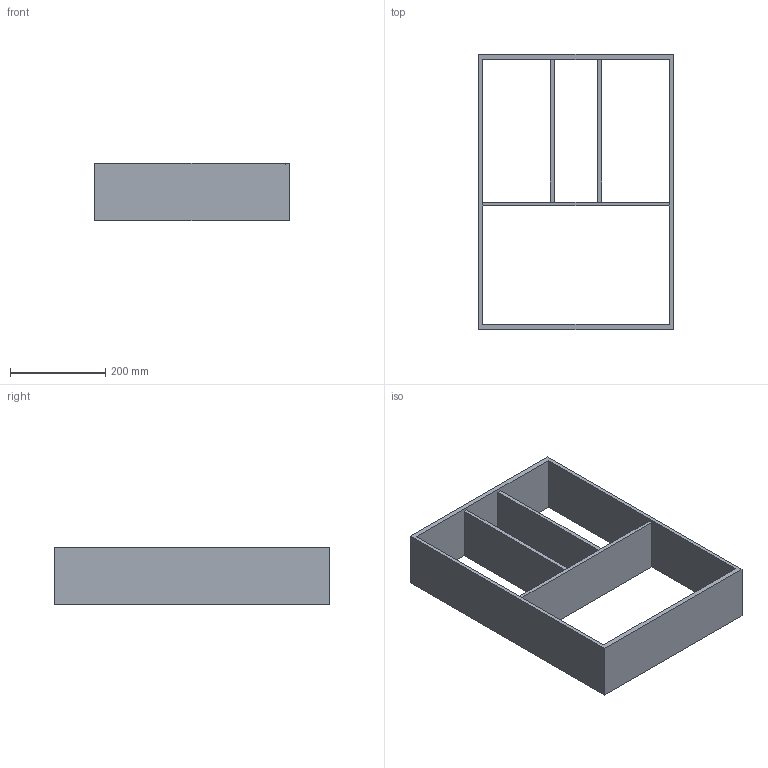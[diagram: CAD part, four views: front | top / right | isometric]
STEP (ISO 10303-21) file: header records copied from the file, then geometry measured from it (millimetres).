
FILE_DESCRIPTION (( 'STEP AP214' ), '1' );
FILE_NAME ('Vario Multi H120 NL600_B500_16 mm_Alu-Buche.step', '2010-10-08T09:47:44', ( 'grass' ), ( '' ), 'SwSTEP 2.0', 'SolidWorks 2010', '' );
FILE_SCHEMA (( 'AUTOMOTIVE_DESIGN' ));
Length unit declared in the file: millimetre
Products named in the file (1): Vario Multi H120 NL600_B500_16 mm_Alu-Buche
Bounding box: 408 x 579 x 120 mm (x, y, z)
Volume: 3050676 mm3; surface area: 736840 mm2
Topology: 1 solids, 1 shells, 22 faces, 60 edges, 40 vertices
Faces by surface type: plane 22
Entity records: 734 total; most frequent: CARTESIAN_POINT 123, ORIENTED_EDGE 120, DIRECTION 106, LINE 60, VECTOR 60, EDGE_CURVE 60, VERTEX_POINT 40, EDGE_LOOP 30
